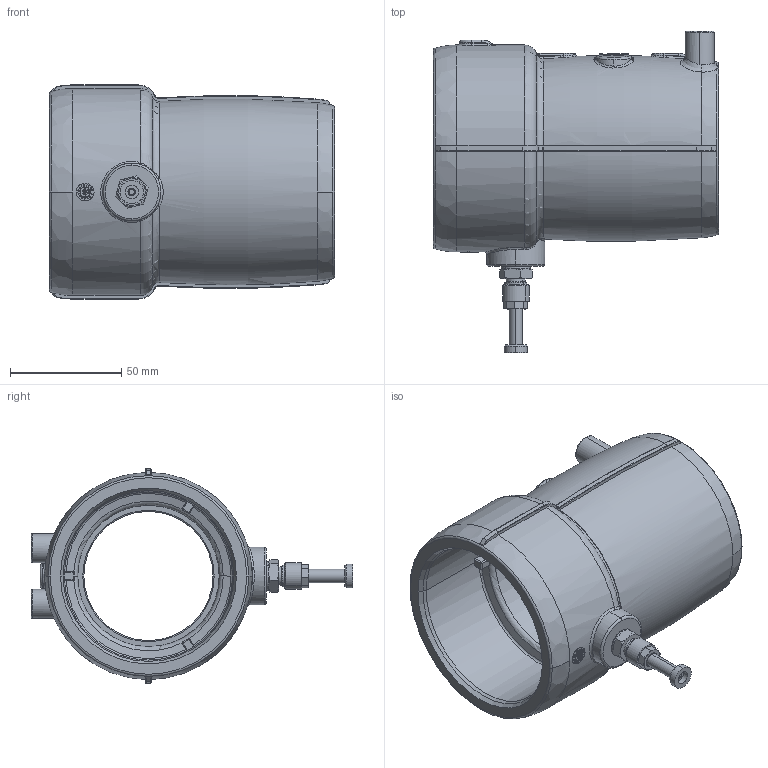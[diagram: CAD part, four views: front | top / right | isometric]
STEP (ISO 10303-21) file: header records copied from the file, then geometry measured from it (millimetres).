
FILE_DESCRIPTION (( 'STEP AP203' ), '1' );
FILE_NAME ('KP_T75-63SC2B-L.STEP', '2012-01-18T11:54:52', ( '' ), ( '' ), 'SwSTEP 2.0', 'SolidWorks 2012', '' );
FILE_SCHEMA (( 'CONFIG_CONTROL_DESIGN' ));
Length unit declared in the file: millimetre
Products named in the file (1): KP_T75-63SC2B-L
Bounding box: 128 x 144.4 x 96.2 mm (x, y, z)
Volume: 299936.6 mm3; surface area: 74156 mm2
Topology: 1 solids, 5 shells, 953 faces, 2390 edges, 1515 vertices
Faces by surface type: plane 347, bspline 262, cylinder 171, cone 85, torus 72, sphere 16
Entity records: 43202 total; most frequent: CARTESIAN_POINT 23060, ORIENTED_EDGE 4752, DIRECTION 3362, EDGE_CURVE 2376, VERTEX_POINT 1513, AXIS2_PLACEMENT_3D 1267, EDGE_LOOP 1039, FACE_OUTER_BOUND 953
